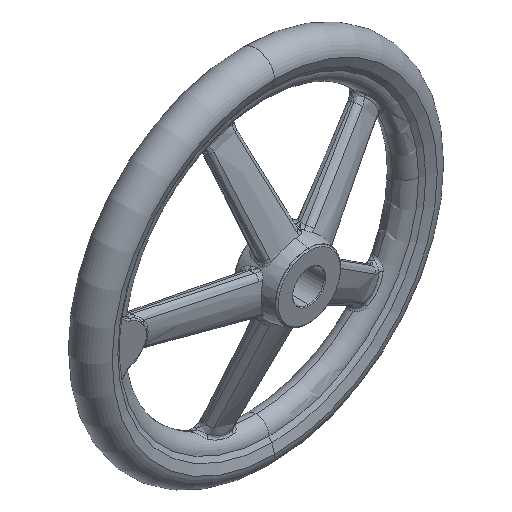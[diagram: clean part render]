
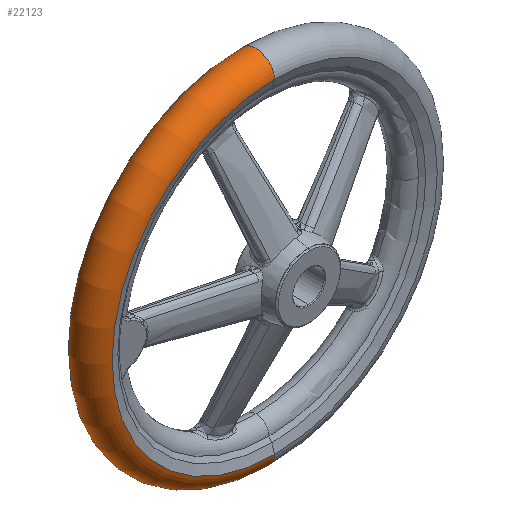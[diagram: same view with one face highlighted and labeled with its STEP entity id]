
A CAD part, isometric view. The second image highlights one B-rep face of the part: STEP entity #22123.
In plain terms, the highlighted toroidal (fillet/blend) face has major radius 111.958 mm and minor radius 13.042 mm.
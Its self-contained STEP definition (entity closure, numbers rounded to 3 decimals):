
#2362 = CARTESIAN_POINT ( 'NONE',  ( 0., 50., -113. ) ) ;
#2363 = CIRCLE ( 'NONE', #2429, 113. ) ;
#2371 = CARTESIAN_POINT ( 'NONE',  ( 0., 50., 0. ) ) ;
#2408 = CARTESIAN_POINT ( 'NONE',  ( 0., 50., 113. ) ) ;
#2427 = DIRECTION ( 'NONE',  ( 0., 0., -1. ) ) ;
#2428 = DIRECTION ( 'NONE',  ( 0., -1., 0. ) ) ;
#2429 = AXIS2_PLACEMENT_3D ( 'NONE', #2371, #2428, #2427 ) ;
#7392 = AXIS2_PLACEMENT_3D ( 'NONE', #7429, #7404, #7403 ) ;
#7403 = DIRECTION ( 'NONE',  ( 0., 0., -1. ) ) ;
#7404 = DIRECTION ( 'NONE',  ( 0., -1., 0. ) ) ;
#7424 = CIRCLE ( 'NONE', #7392, 113. ) ;
#7429 = CARTESIAN_POINT ( 'NONE',  ( 0., 24., 0. ) ) ;
#7480 = CARTESIAN_POINT ( 'NONE',  ( 0., 24., 113. ) ) ;
#7519 = CARTESIAN_POINT ( 'NONE',  ( 0., 24., -113. ) ) ;
#8336 = DIRECTION ( 'NONE',  ( 0., 0., -1. ) ) ;
#8337 = DIRECTION ( 'NONE',  ( 1., 0., 0. ) ) ;
#8338 = CARTESIAN_POINT ( 'NONE',  ( 0., 37., 111.958 ) ) ;
#8339 = AXIS2_PLACEMENT_3D ( 'NONE', #8338, #8337, #8336 ) ;
#8341 = CIRCLE ( 'NONE', #8339, 13.042 ) ;
#8408 = CIRCLE ( 'NONE', #8460, 13.042 ) ;
#8435 = DIRECTION ( 'NONE',  ( 0., 0., 1. ) ) ;
#8436 = DIRECTION ( 'NONE',  ( -1., 0., 0. ) ) ;
#8437 = CARTESIAN_POINT ( 'NONE',  ( 0., 37., -111.958 ) ) ;
#8460 = AXIS2_PLACEMENT_3D ( 'NONE', #8437, #8436, #8435 ) ;
#15650 = DIRECTION ( 'NONE',  ( 0., 0., -1. ) ) ;
#15651 = DIRECTION ( 'NONE',  ( 0., -1., 0. ) ) ;
#15654 = AXIS2_PLACEMENT_3D ( 'NONE', #15655, #15651, #15650 ) ;
#15655 = CARTESIAN_POINT ( 'NONE',  ( 0., 37., 0. ) ) ;
#15659 = FACE_OUTER_BOUND ( 'NONE', #22055, .T. ) ;
#15663 = TOROIDAL_SURFACE ( 'NONE', #15654, 111.958, 13.042 ) ;
#21970 = ORIENTED_EDGE ( 'NONE', *, *, #36662, .T. ) ;
#21973 = ORIENTED_EDGE ( 'NONE', *, *, #36614, .F. ) ;
#21974 = ORIENTED_EDGE ( 'NONE', *, *, #36558, .F. ) ;
#22055 = EDGE_LOOP ( 'NONE', ( #21973, #22115, #21970, #21974 ) ) ;
#22115 = ORIENTED_EDGE ( 'NONE', *, *, #32269, .T. ) ;
#22123 = ADVANCED_FACE ( 'NONE', ( #15659 ), #15663, .T. ) ;
#32269 = EDGE_CURVE ( 'NONE', #32298, #32295, #2363, .T. ) ;
#32295 = VERTEX_POINT ( 'NONE', #2362 ) ;
#32298 = VERTEX_POINT ( 'NONE', #2408 ) ;
#36558 = EDGE_CURVE ( 'NONE', #36581, #36587, #7424, .T. ) ;
#36581 = VERTEX_POINT ( 'NONE', #7480 ) ;
#36587 = VERTEX_POINT ( 'NONE', #7519 ) ;
#36614 = EDGE_CURVE ( 'NONE', #32298, #36581, #8341, .T. ) ;
#36662 = EDGE_CURVE ( 'NONE', #32295, #36587, #8408, .T. ) ;
